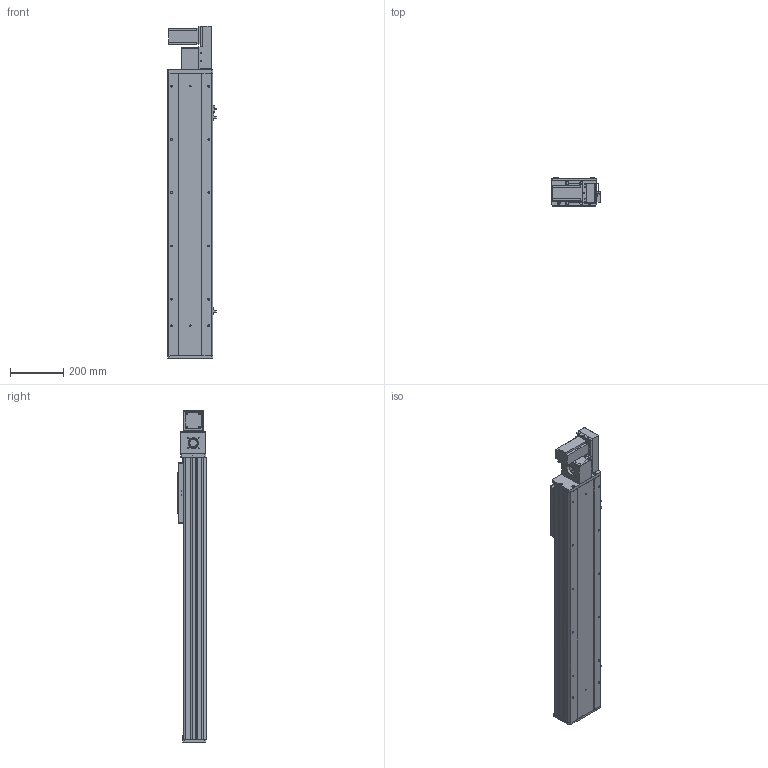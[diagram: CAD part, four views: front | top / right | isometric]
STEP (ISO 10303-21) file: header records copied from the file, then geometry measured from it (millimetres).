
FILE_DESCRIPTION (( 'STEP AP203' ), '1' );
FILE_NAME ('Y170CB-D105-S750-BR-P400W.STEP', '2020-02-19T09:02:14', ( '微软用户' ), ( '微软中国' ), 'SwSTEP 2.0', 'SolidWorks 2017', '' );
FILE_SCHEMA (( 'CONFIG_CONTROL_DESIGN' ));
Length unit declared in the file: millimetre
Products named in the file (17): 70B喘謫眊----; B-源倛裔啣; 17B-耜蚾蟀諉啣----; 0B-萇儂楊擘啣; san松下电机400不带刹车----; Y70俋欶BR----; 70CB-掛极-; --70CB --喘謫眊楊擘啣-; 70CB-耜裔啣-; 70C--詩湍揤踡え-; 70CB--耜裔; 70C-雄赽釱-奻-; 0C--雄赽釱俋欶-170; 70CB-詩湍--; Y100-135俋离換覜ん--; Y170CB-陔俋离換覜結え---; Y170CB-D105-S750-BR-P400W
Assembly tree (20 placements, depth 2):
  Y170CB-D105-S750-BR-P400W
    70B喘謫眊----
    B-源倛裔啣
    17B-耜蚾蟀諉啣----
    0B-萇儂楊擘啣
    san松下电机400不带刹车----
    Y70俋欶BR----
    70CB-掛极-
    --70CB --喘謫眊楊擘啣-
    70CB-耜裔啣-  x2
    70C--詩湍揤踡え-  x2
    70CB--耜裔
    70C-雄赽釱-奻-
    0C--雄赽釱俋欶-170
    70CB-詩湍--
    Y100-135俋离換覜ん--  x3
    Y170CB-陔俋离換覜結え---
Bounding box: 183.5 x 107 x 1247 mm (x, y, z)
Volume: 5547734.2 mm3; surface area: 1975402.4 mm2
Topology: 20 solids, 20 shells, 985 faces, 2633 edges, 1746 vertices
Faces by surface type: cylinder 499, plane 462, cone 24
Entity records: 31167 total; most frequent: CARTESIAN_POINT 5721, DIRECTION 5068, ORIENTED_EDGE 4748, EDGE_CURVE 2374, AXIS2_PLACEMENT_3D 1845, VERTEX_POINT 1576, VECTOR 1378, LINE 1378
